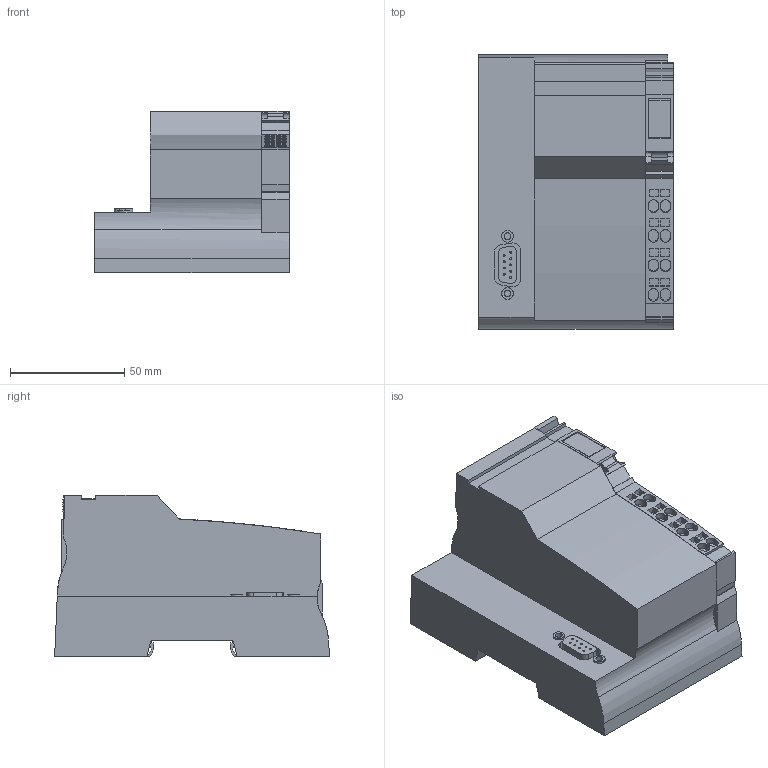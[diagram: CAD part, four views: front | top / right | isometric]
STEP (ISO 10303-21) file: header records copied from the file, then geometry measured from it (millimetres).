
FILE_DESCRIPTION( ( '' ), '1' );
FILE_NAME( '//SERVER/Users/WC000/WC011/WORKING/DEV/V 1-00/KS Vario/KS Vario - MOD4 - CC - 01.stp', '2017-03-09T20:19:24', ( 'KPM' ), ( 'KMC Design' ), 'PSStep 17.0.49', ' ', ' ' );
FILE_SCHEMA( ( 'AUTOMOTIVE_DESIGN { 1 0 10303 214 1 1 1 1 }' ) );
Length unit declared in the file: millimetre
Products named in the file (3): Assem1; VARIO TERMINAL BLOCK, 8W; VARIO BUS COUPLER
Assembly tree (2 placements, depth 2):
  Assem1
    VARIO TERMINAL BLOCK, 8W
    VARIO BUS COUPLER
Bounding box: 85.05 x 120 x 70.48 mm (x, y, z)
Volume: 479904.5 mm3; surface area: 58199.1 mm2
Topology: 2 solids, 2 shells, 350 faces, 985 edges, 675 vertices
Faces by surface type: plane 285, cylinder 62, bspline 3
Full cylindrical faces by diameter (mm): 0.8 x9, 3 x2, 5.1 x2
Entity records: 14946 total; most frequent: CARTESIAN_POINT 3053, ORIENTED_EDGE 1944, DIRECTION 1733, EDGE_CURVE 972, LINE 733, VECTOR 733, VERTEX_POINT 675, AXIS2_PLACEMENT_3D 500
